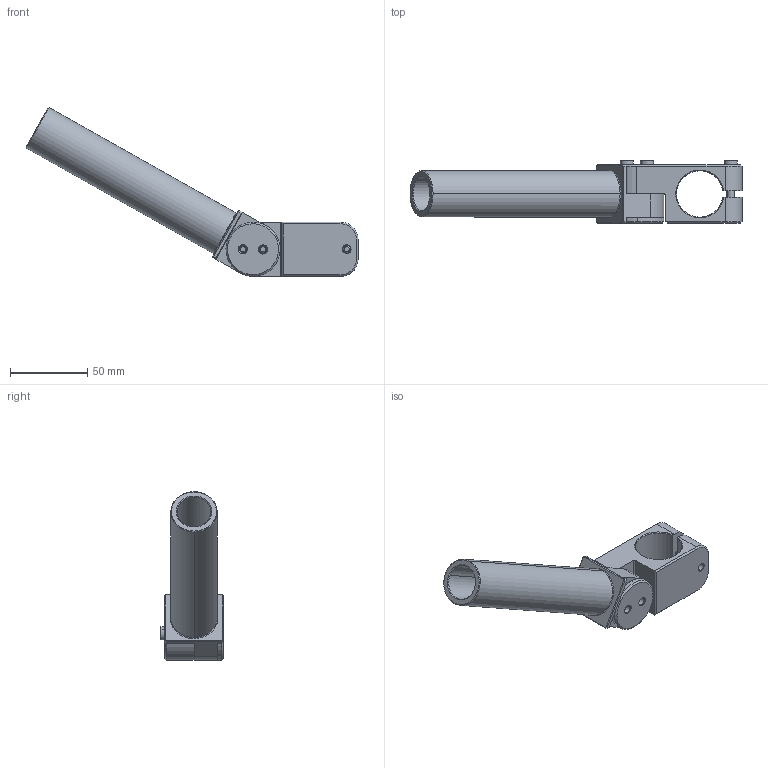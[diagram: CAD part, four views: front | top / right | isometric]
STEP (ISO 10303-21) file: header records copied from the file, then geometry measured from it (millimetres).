
FILE_DESCRIPTION (( 'STEP AP214' ), '1' );
FILE_NAME ('SEAH-3030L140.STEP', '2019-11-11T03:46:35', ( '微软用户' ), ( '微软中国' ), 'SwSTEP 2.0', 'SolidWorks 2016', '' );
FILE_SCHEMA (( 'AUTOMOTIVE_DESIGN' ));
Length unit declared in the file: millimetre
Products named in the file (1): SEAH-3030L140
Bounding box: 214.94 x 40.6 x 109.13 mm (x, y, z)
Volume: 131726.5 mm3; surface area: 50306 mm2
Topology: 9 solids, 9 shells, 778 faces, 2174 edges, 1418 vertices
Faces by surface type: plane 651, cylinder 64, cone 53, bspline 10
Entity records: 34766 total; most frequent: CARTESIAN_POINT 5478, DIRECTION 4424, ORIENTED_EDGE 4344, EDGE_CURVE 2172, AXIS2_PLACEMENT_3D 1507, VERTEX_POINT 1418, LINE 1410, VECTOR 1410
